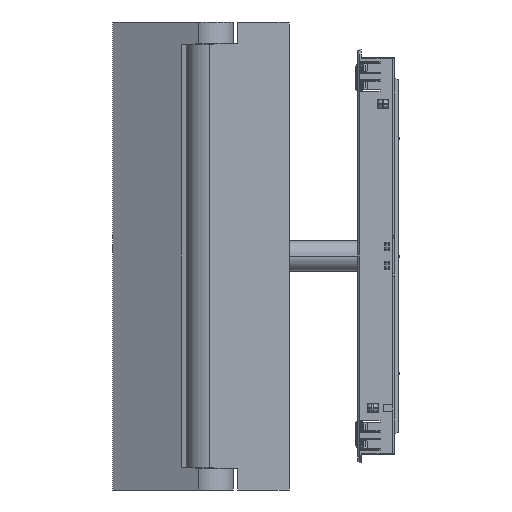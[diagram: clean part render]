
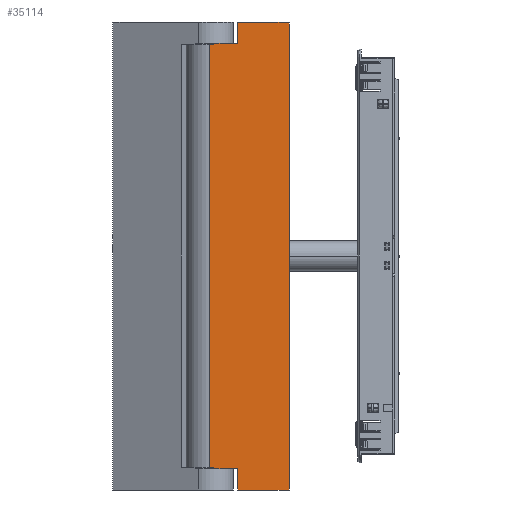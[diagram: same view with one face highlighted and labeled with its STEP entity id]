
A CAD part, left-side view. The second image highlights one B-rep face of the part: STEP entity #35114.
In plain terms, the highlighted planar face has unit normal (-1, 0, 0).
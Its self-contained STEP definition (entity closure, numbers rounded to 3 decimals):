
#717 = CARTESIAN_POINT ( 'NONE',  ( -11., 5.5, 109. ) ) ;
#853 = DIRECTION ( 'NONE',  ( 0., 0., -1. ) ) ;
#4169 = VECTOR ( 'NONE', #70714, 1000. ) ;
#4355 = CARTESIAN_POINT ( 'NONE',  ( -11., 18.5, 99. ) ) ;
#5228 = VERTEX_POINT ( 'NONE', #717 ) ;
#5240 = CARTESIAN_POINT ( 'NONE',  ( -11., -18.5, -109. ) ) ;
#8240 = VECTOR ( 'NONE', #853, 1000. ) ;
#9128 = EDGE_CURVE ( 'NONE', #40054, #75185, #34515, .T. ) ;
#10105 = DIRECTION ( 'NONE',  ( 0., 0., -1. ) ) ;
#12053 = VECTOR ( 'NONE', #19765, 1000. ) ;
#12990 = VERTEX_POINT ( 'NONE', #53246 ) ;
#14016 = EDGE_LOOP ( 'NONE', ( #45624, #30771, #87493, #78908, #47745, #39674, #43195, #22466 ) ) ;
#14085 = VECTOR ( 'NONE', #14986, 1000. ) ;
#14703 = CARTESIAN_POINT ( 'NONE',  ( -11., 18.5, -109. ) ) ;
#14986 = DIRECTION ( 'NONE',  ( 0., 0., 1. ) ) ;
#15438 = LINE ( 'NONE', #42456, #27445 ) ;
#16696 = LINE ( 'NONE', #43710, #4169 ) ;
#17430 = DIRECTION ( 'NONE',  ( 0., 1., 0. ) ) ;
#18308 = VECTOR ( 'NONE', #51456, 1000. ) ;
#19765 = DIRECTION ( 'NONE',  ( 0., 0., -1. ) ) ;
#20887 = EDGE_CURVE ( 'NONE', #75185, #70340, #15438, .T. ) ;
#22466 = ORIENTED_EDGE ( 'NONE', *, *, #65793, .T. ) ;
#24478 = CARTESIAN_POINT ( 'NONE',  ( -11., 18.5, 99. ) ) ;
#26829 = AXIS2_PLACEMENT_3D ( 'NONE', #14703, #41713, #68719 ) ;
#27445 = VECTOR ( 'NONE', #69451, 1000. ) ;
#30020 = CARTESIAN_POINT ( 'NONE',  ( -11., 5.5, -109. ) ) ;
#30771 = ORIENTED_EDGE ( 'NONE', *, *, #81316, .T. ) ;
#32023 = VERTEX_POINT ( 'NONE', #4355 ) ;
#32684 = EDGE_CURVE ( 'NONE', #61806, #5228, #51053, .T. ) ;
#34515 = LINE ( 'NONE', #61479, #8240 ) ;
#35114 = ADVANCED_FACE ( 'NONE', ( #48355 ), #75357, .T. ) ;
#39674 = ORIENTED_EDGE ( 'NONE', *, *, #32684, .T. ) ;
#40054 = VERTEX_POINT ( 'NONE', #68258 ) ;
#41713 = DIRECTION ( 'NONE',  ( -1., 0., 0. ) ) ;
#42456 = CARTESIAN_POINT ( 'NONE',  ( -11., 18.5, -109. ) ) ;
#43195 = ORIENTED_EDGE ( 'NONE', *, *, #60284, .T. ) ;
#43710 = CARTESIAN_POINT ( 'NONE',  ( -11., 18.5, -99. ) ) ;
#43750 = LINE ( 'NONE', #70750, #44970 ) ;
#44970 = VECTOR ( 'NONE', #10105, 1000. ) ;
#45624 = ORIENTED_EDGE ( 'NONE', *, *, #74257, .T. ) ;
#47027 = CARTESIAN_POINT ( 'NONE',  ( -11., -18.5, 109. ) ) ;
#47745 = ORIENTED_EDGE ( 'NONE', *, *, #83949, .T. ) ;
#48355 = FACE_OUTER_BOUND ( 'NONE', #14016, .T. ) ;
#48629 = LINE ( 'NONE', #75628, #14085 ) ;
#51053 = LINE ( 'NONE', #78045, #62441 ) ;
#51456 = DIRECTION ( 'NONE',  ( 0., 1., 0. ) ) ;
#53246 = CARTESIAN_POINT ( 'NONE',  ( -11., 18.5, -99. ) ) ;
#53359 = LINE ( 'NONE', #80380, #12053 ) ;
#60284 = EDGE_CURVE ( 'NONE', #5228, #62493, #43750, .T. ) ;
#61479 = CARTESIAN_POINT ( 'NONE',  ( -11., 5.5, -109. ) ) ;
#61806 = VERTEX_POINT ( 'NONE', #47027 ) ;
#62441 = VECTOR ( 'NONE', #17430, 1000. ) ;
#62493 = VERTEX_POINT ( 'NONE', #72394 ) ;
#65793 = EDGE_CURVE ( 'NONE', #62493, #32023, #85106, .T. ) ;
#68258 = CARTESIAN_POINT ( 'NONE',  ( -11., 5.5, -99. ) ) ;
#68719 = DIRECTION ( 'NONE',  ( 0., 0., 1. ) ) ;
#69451 = DIRECTION ( 'NONE',  ( 0., -1., 0. ) ) ;
#70340 = VERTEX_POINT ( 'NONE', #5240 ) ;
#70714 = DIRECTION ( 'NONE',  ( 0., -1., 0. ) ) ;
#70750 = CARTESIAN_POINT ( 'NONE',  ( -11., 5.5, -109. ) ) ;
#72394 = CARTESIAN_POINT ( 'NONE',  ( -11., 5.5, 99. ) ) ;
#74257 = EDGE_CURVE ( 'NONE', #32023, #12990, #53359, .T. ) ;
#75185 = VERTEX_POINT ( 'NONE', #30020 ) ;
#75357 = PLANE ( 'NONE',  #26829 ) ;
#75628 = CARTESIAN_POINT ( 'NONE',  ( -11., -18.5, -109. ) ) ;
#78045 = CARTESIAN_POINT ( 'NONE',  ( -11., 18.5, 109. ) ) ;
#78908 = ORIENTED_EDGE ( 'NONE', *, *, #20887, .T. ) ;
#80380 = CARTESIAN_POINT ( 'NONE',  ( -11., 18.5, -109. ) ) ;
#81316 = EDGE_CURVE ( 'NONE', #12990, #40054, #16696, .T. ) ;
#83949 = EDGE_CURVE ( 'NONE', #70340, #61806, #48629, .T. ) ;
#85106 = LINE ( 'NONE', #24478, #18308 ) ;
#87493 = ORIENTED_EDGE ( 'NONE', *, *, #9128, .T. ) ;
